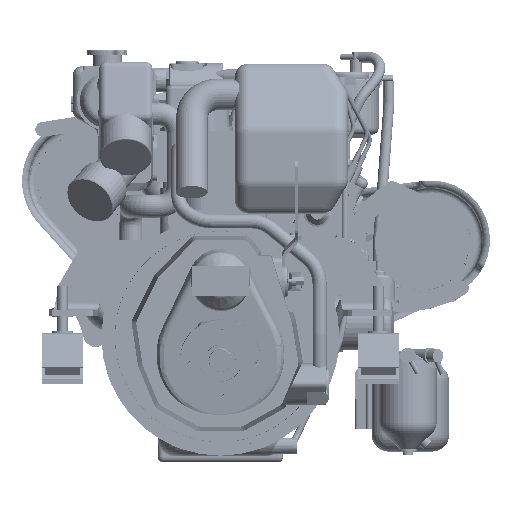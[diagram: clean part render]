
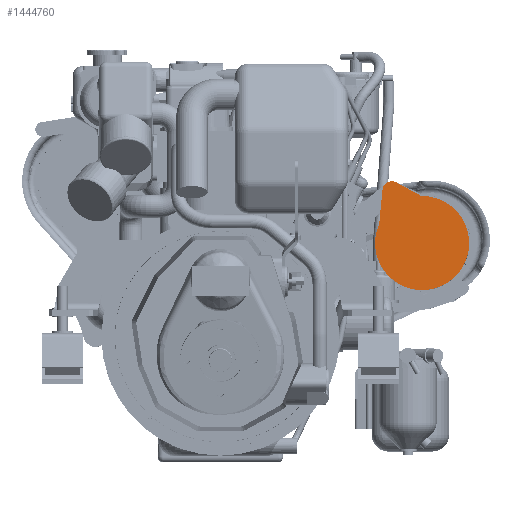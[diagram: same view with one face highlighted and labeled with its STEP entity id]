
A CAD part, top view. The second image highlights one B-rep face of the part: STEP entity #1444760.
In plain terms, the highlighted planar face has unit normal (0, 0, 1) as drawn and (0, -1, 0) by its records, which use the part's own axes.
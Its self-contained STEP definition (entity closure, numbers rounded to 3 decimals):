
#1443770=CARTESIAN_POINT('',(-132.096,118.,
194.164));
#1443780=VERTEX_POINT('',#1443770);
#1443810=CARTESIAN_POINT('',(-202.,118.,190.5));
#1443820=DIRECTION('',(0.,-1.,0.));
#1443830=DIRECTION('',(0.999,0.,0.052));
#1443840=AXIS2_PLACEMENT_3D('',#1443810,#1443820,#1443830);
#1443850=CIRCLE('',#1443840,70.);
#1443860=CARTESIAN_POINT('',(-271.904,118.,
186.836));
#1443870=VERTEX_POINT('',#1443860);
#1443880=EDGE_CURVE('',#1443780,#1443870,#1443850,.T.);
#1444370=CARTESIAN_POINT('',(-167.048,118.,
192.332));
#1444380=DIRECTION('',(0.,-1.,0.));
#1444390=DIRECTION('',(0.999,0.,0.052));
#1444400=AXIS2_PLACEMENT_3D('',#1444370,#1444380,#1444390);
#1444410=PLANE('',#1444400);
#1444420=ORIENTED_EDGE('',*,*,#1443880,.T.);
#1444430=CARTESIAN_POINT('',(-161.,118.,
133.764));
#1444440=VERTEX_POINT('',#1444430);
#1444450=EDGE_CURVE('',#1444440,#1443780,#1443850,.T.);
#1444460=ORIENTED_EDGE('',*,*,#1444450,.T.);
#1444470=CARTESIAN_POINT('',(-161.,118.,133.764));
#1444480=DIRECTION('',(-0.582,0.,-0.813));
#1444490=VECTOR('',#1444480,1.);
#1444500=LINE('',#1444470,#1444490);
#1444510=CARTESIAN_POINT('',(-190.612,118.,92.356));
#1444520=VERTEX_POINT('',#1444510);
#1444530=EDGE_CURVE('',#1444440,#1444520,#1444500,.T.);
#1444540=ORIENTED_EDGE('',*,*,#1444530,.F.);
#1444550=CARTESIAN_POINT('',(-202.,118.,100.5));
#1444560=DIRECTION('',(0.,-1.,0.));
#1444570=DIRECTION('',(-1.,0.,0.));
#1444580=AXIS2_PLACEMENT_3D('',#1444550,#1444560,#1444570);
#1444590=CIRCLE('',#1444580,14.);
#1444600=CARTESIAN_POINT('',(-213.948,118.,93.203));
#1444610=VERTEX_POINT('',#1444600);
#1444620=EDGE_CURVE('',#1444610,#1444520,#1444590,.T.);
#1444630=ORIENTED_EDGE('',*,*,#1444620,.T.);
#1444640=CARTESIAN_POINT('',(-213.948,118.,93.203));
#1444650=DIRECTION('',(-0.521,0.,0.853));
#1444660=VECTOR('',#1444650,1.);
#1444670=LINE('',#1444640,#1444660);
#1444680=CARTESIAN_POINT('',(-236.,118.,
129.312));
#1444690=VERTEX_POINT('',#1444680);
#1444700=EDGE_CURVE('',#1444610,#1444690,#1444670,.T.);
#1444710=ORIENTED_EDGE('',*,*,#1444700,.F.);
#1444720=EDGE_CURVE('',#1443870,#1444690,#1443850,.T.);
#1444730=ORIENTED_EDGE('',*,*,#1444720,.T.);
#1444740=EDGE_LOOP('',(#1444730,#1444710,#1444630,#1444540,#1444460,
#1444420));
#1444750=FACE_OUTER_BOUND('',#1444740,.T.);
#1444760=ADVANCED_FACE('',(#1444750),#1444410,.T.);
